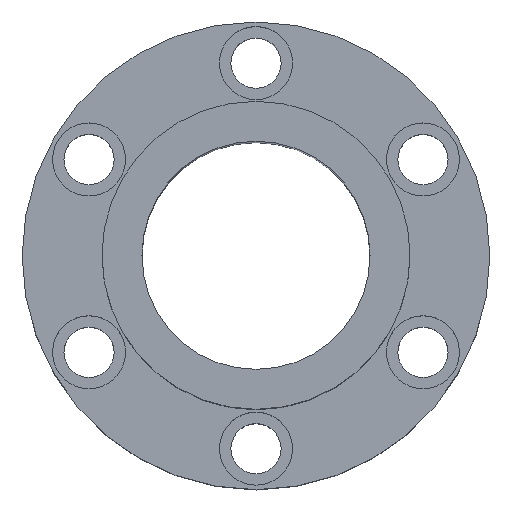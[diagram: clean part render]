
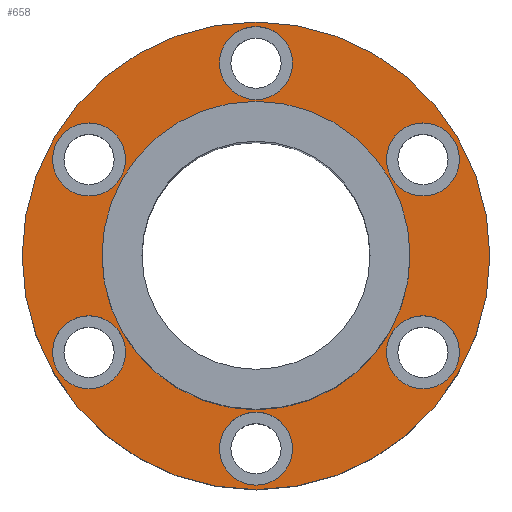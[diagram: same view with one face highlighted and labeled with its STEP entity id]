
A CAD part, top view. The second image highlights one B-rep face of the part: STEP entity #658.
In plain terms, the highlighted planar face has unit normal (0, 0, 1).
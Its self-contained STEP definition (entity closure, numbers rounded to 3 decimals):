
#1=CARTESIAN_POINT('',(0.,0.,38.));
#2=DIRECTION('',(0.,0.,1.));
#3=DIRECTION('',(1.,0.,0.));
#4=AXIS2_PLACEMENT_3D('',#1,#2,#3);
#6=CARTESIAN_POINT('',(0.,0.,38.));
#7=DIRECTION('',(0.,0.,1.));
#8=DIRECTION('',(-1.,0.,0.));
#9=AXIS2_PLACEMENT_3D('',#6,#7,#8);
#11=CARTESIAN_POINT('',(73.179,-42.25,38.));
#12=DIRECTION('',(0.,0.,-1.));
#13=DIRECTION('',(-0.5,-0.866,0.));
#14=AXIS2_PLACEMENT_3D('',#11,#12,#13);
#16=CARTESIAN_POINT('',(73.179,-42.25,38.));
#17=DIRECTION('',(0.,0.,-1.));
#18=DIRECTION('',(0.5,0.866,0.));
#19=AXIS2_PLACEMENT_3D('',#16,#17,#18);
#21=CARTESIAN_POINT('',(-73.179,-42.25,38.));
#22=DIRECTION('',(0.,0.,-1.));
#23=DIRECTION('',(-0.5,0.866,0.));
#24=AXIS2_PLACEMENT_3D('',#21,#22,#23);
#26=CARTESIAN_POINT('',(-73.179,-42.25,38.));
#27=DIRECTION('',(0.,0.,-1.));
#28=DIRECTION('',(0.5,-0.866,0.));
#29=AXIS2_PLACEMENT_3D('',#26,#27,#28);
#31=CARTESIAN_POINT('',(0.,84.5,38.));
#32=DIRECTION('',(0.,0.,-1.));
#33=DIRECTION('',(1.,0.,0.));
#34=AXIS2_PLACEMENT_3D('',#31,#32,#33);
#36=CARTESIAN_POINT('',(0.,84.5,38.));
#37=DIRECTION('',(0.,0.,-1.));
#38=DIRECTION('',(-1.,0.,0.));
#39=AXIS2_PLACEMENT_3D('',#36,#37,#38);
#41=CARTESIAN_POINT('',(0.,0.,38.));
#42=DIRECTION('',(0.,0.,-1.));
#43=DIRECTION('',(1.,0.,0.));
#44=AXIS2_PLACEMENT_3D('',#41,#42,#43);
#46=CARTESIAN_POINT('',(0.,0.,38.));
#47=DIRECTION('',(0.,0.,-1.));
#48=DIRECTION('',(-1.,0.,0.));
#49=AXIS2_PLACEMENT_3D('',#46,#47,#48);
#51=CARTESIAN_POINT('',(-73.179,42.25,38.));
#52=DIRECTION('',(0.,0.,-1.));
#53=DIRECTION('',(0.5,0.866,0.));
#54=AXIS2_PLACEMENT_3D('',#51,#52,#53);
#56=CARTESIAN_POINT('',(-73.179,42.25,38.));
#57=DIRECTION('',(0.,0.,-1.));
#58=DIRECTION('',(-0.5,-0.866,0.));
#59=AXIS2_PLACEMENT_3D('',#56,#57,#58);
#61=CARTESIAN_POINT('',(0.,-84.5,38.));
#62=DIRECTION('',(0.,0.,-1.));
#63=DIRECTION('',(-1.,0.,0.));
#64=AXIS2_PLACEMENT_3D('',#61,#62,#63);
#66=CARTESIAN_POINT('',(0.,-84.5,38.));
#67=DIRECTION('',(0.,0.,-1.));
#68=DIRECTION('',(1.,0.,0.));
#69=AXIS2_PLACEMENT_3D('',#66,#67,#68);
#71=CARTESIAN_POINT('',(73.179,42.25,38.));
#72=DIRECTION('',(0.,0.,-1.));
#73=DIRECTION('',(0.5,-0.866,0.));
#74=AXIS2_PLACEMENT_3D('',#71,#72,#73);
#76=CARTESIAN_POINT('',(73.179,42.25,38.));
#77=DIRECTION('',(0.,0.,-1.));
#78=DIRECTION('',(-0.5,0.866,0.));
#79=AXIS2_PLACEMENT_3D('',#76,#77,#78);
#533=CARTESIAN_POINT('',(-102.5,0.,38.));
#535=VERTEX_POINT('',#533);
#537=CARTESIAN_POINT('',(102.5,0.,38.));
#539=VERTEX_POINT('',#537);
#541=CARTESIAN_POINT('',(16.,84.5,38.));
#543=VERTEX_POINT('',#541);
#545=CARTESIAN_POINT('',(-16.,84.5,38.));
#547=VERTEX_POINT('',#545);
#549=CARTESIAN_POINT('',(-65.179,56.106,38.));
#551=VERTEX_POINT('',#549);
#553=CARTESIAN_POINT('',(-81.179,28.394,38.));
#555=VERTEX_POINT('',#553);
#557=CARTESIAN_POINT('',(-81.179,-28.394,38.));
#559=VERTEX_POINT('',#557);
#561=CARTESIAN_POINT('',(-65.179,-56.106,38.));
#563=VERTEX_POINT('',#561);
#565=CARTESIAN_POINT('',(-16.,-84.5,38.));
#567=VERTEX_POINT('',#565);
#569=CARTESIAN_POINT('',(16.,-84.5,38.));
#571=VERTEX_POINT('',#569);
#573=CARTESIAN_POINT('',(65.179,-56.106,38.));
#575=VERTEX_POINT('',#573);
#577=CARTESIAN_POINT('',(81.179,-28.394,38.));
#579=VERTEX_POINT('',#577);
#581=CARTESIAN_POINT('',(81.179,28.394,38.));
#583=VERTEX_POINT('',#581);
#585=CARTESIAN_POINT('',(65.179,56.106,38.));
#587=VERTEX_POINT('',#585);
#598=CARTESIAN_POINT('',(67.5,0.,38.));
#600=VERTEX_POINT('',#598);
#602=CARTESIAN_POINT('',(-67.5,0.,38.));
#604=VERTEX_POINT('',#602);
#605=CARTESIAN_POINT('',(0.,0.,38.));
#606=DIRECTION('',(0.,0.,1.));
#607=DIRECTION('',(1.,0.,0.));
#608=AXIS2_PLACEMENT_3D('',#605,#606,#607);
#609=PLANE('',#608);
#611=ORIENTED_EDGE('',*,*,#610,.F.);
#613=ORIENTED_EDGE('',*,*,#612,.F.);
#614=EDGE_LOOP('',(#611,#613));
#615=FACE_OUTER_BOUND('',#614,.F.);
#617=ORIENTED_EDGE('',*,*,#616,.F.);
#619=ORIENTED_EDGE('',*,*,#618,.F.);
#620=EDGE_LOOP('',(#617,#619));
#621=FACE_BOUND('',#620,.F.);
#623=ORIENTED_EDGE('',*,*,#622,.F.);
#625=ORIENTED_EDGE('',*,*,#624,.F.);
#626=EDGE_LOOP('',(#623,#625));
#627=FACE_BOUND('',#626,.F.);
#629=ORIENTED_EDGE('',*,*,#628,.F.);
#631=ORIENTED_EDGE('',*,*,#630,.F.);
#632=EDGE_LOOP('',(#629,#631));
#633=FACE_BOUND('',#632,.F.);
#635=ORIENTED_EDGE('',*,*,#634,.F.);
#637=ORIENTED_EDGE('',*,*,#636,.F.);
#638=EDGE_LOOP('',(#635,#637));
#639=FACE_BOUND('',#638,.F.);
#641=ORIENTED_EDGE('',*,*,#640,.F.);
#643=ORIENTED_EDGE('',*,*,#642,.F.);
#644=EDGE_LOOP('',(#641,#643));
#645=FACE_BOUND('',#644,.F.);
#647=ORIENTED_EDGE('',*,*,#646,.F.);
#649=ORIENTED_EDGE('',*,*,#648,.F.);
#650=EDGE_LOOP('',(#647,#649));
#651=FACE_BOUND('',#650,.F.);
#653=ORIENTED_EDGE('',*,*,#652,.F.);
#655=ORIENTED_EDGE('',*,*,#654,.F.);
#656=EDGE_LOOP('',(#653,#655));
#657=FACE_BOUND('',#656,.F.);
#658=ADVANCED_FACE('',(#615,#621,#627,#633,#639,#645,#651,#657),#609,.T.);
#5=CIRCLE('',#4,102.5);
#10=CIRCLE('',#9,102.5);
#15=CIRCLE('',#14,16.);
#20=CIRCLE('',#19,16.);
#25=CIRCLE('',#24,16.);
#30=CIRCLE('',#29,16.);
#35=CIRCLE('',#34,16.);
#40=CIRCLE('',#39,16.);
#45=CIRCLE('',#44,67.5);
#50=CIRCLE('',#49,67.5);
#55=CIRCLE('',#54,16.);
#60=CIRCLE('',#59,16.);
#65=CIRCLE('',#64,16.);
#70=CIRCLE('',#69,16.);
#75=CIRCLE('',#74,16.);
#80=CIRCLE('',#79,16.);
#610=EDGE_CURVE('',#539,#535,#5,.T.);
#612=EDGE_CURVE('',#535,#539,#10,.T.);
#616=EDGE_CURVE('',#575,#579,#15,.T.);
#618=EDGE_CURVE('',#579,#575,#20,.T.);
#622=EDGE_CURVE('',#559,#563,#25,.T.);
#624=EDGE_CURVE('',#563,#559,#30,.T.);
#628=EDGE_CURVE('',#543,#547,#35,.T.);
#630=EDGE_CURVE('',#547,#543,#40,.T.);
#634=EDGE_CURVE('',#600,#604,#45,.T.);
#636=EDGE_CURVE('',#604,#600,#50,.T.);
#640=EDGE_CURVE('',#551,#555,#55,.T.);
#642=EDGE_CURVE('',#555,#551,#60,.T.);
#646=EDGE_CURVE('',#567,#571,#65,.T.);
#648=EDGE_CURVE('',#571,#567,#70,.T.);
#652=EDGE_CURVE('',#583,#587,#75,.T.);
#654=EDGE_CURVE('',#587,#583,#80,.T.);
